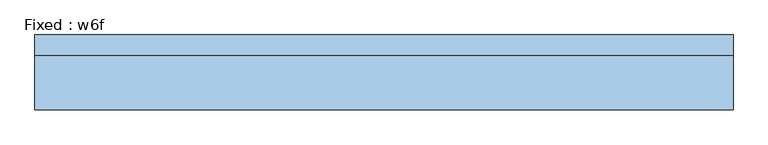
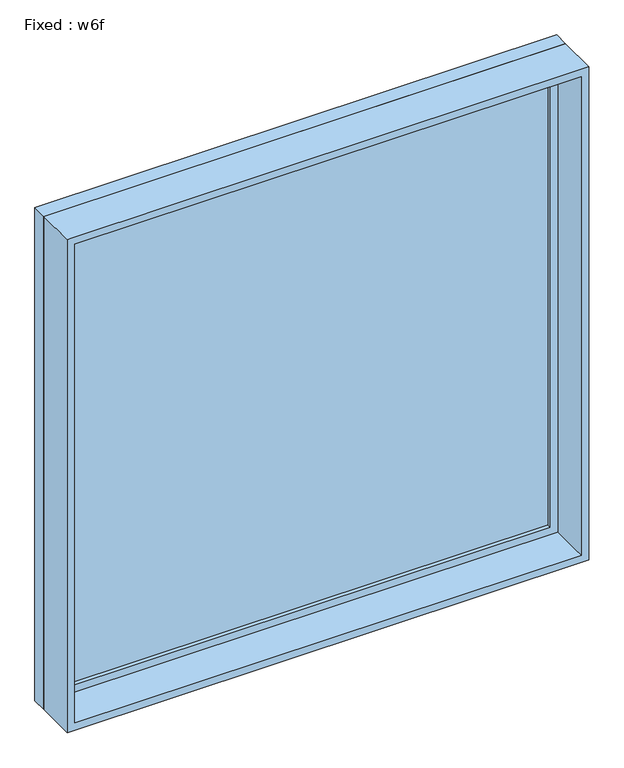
"""IFC4 building model written with IfcOpenShell, lengths in millimetres: window geometry, Fixed : w6f."""

from ifc_helpers import new_model, si_unit, frame, origin, place, context, project, spatial, polyline, outline, extrude, source, transform, mapped, element, save


def fixed_w6f_92124ed6(model_context):
    return source(origin(), model_context, "Body", "SweptSolid", [
        extrude(outline(polyline([(965.2, 66.675), (-1041.4, 66.675), (-1041.4, 79.375), (965.2, 79.375), (965.2, 66.675)])), frame((0.0, 0.0, 977.9), z_axis=(0.0, 0.0, 1.0), x_axis=(1.0, 0.0, 0.0)), (0.0, 0.0, 1.0), 2006.6),
        extrude(outline(polyline([(3028.95, -1085.85), (933.45, -1085.85), (933.45, 1009.65), (3028.95, 1009.65), (3028.95, -1085.85)]), holes=[polyline([(2984.5, -1041.4), (2984.5, 965.2), (977.9, 965.2), (977.9, -1041.4), (2984.5, -1041.4)])]), frame((0.0, 50.8, 0.0), z_axis=(0.0, 1.0, 0.0), x_axis=(0.0, 0.0, 1.0)), (0.0, 0.0, 1.0), 44.45),
        extrude(outline(polyline([(3048.0, -1104.9), (914.4, -1104.9), (914.4, 1028.7), (3048.0, 1028.7), (3048.0, -1104.9)]), holes=[polyline([(3016.25, -1073.15), (3016.25, 996.95), (946.15, 996.95), (946.15, -1073.15), (3016.25, -1073.15)])]), frame((0.0, -114.3, 0.0), z_axis=(0.0, 1.0, 0.0), x_axis=(0.0, 0.0, 1.0)), (0.0, 0.0, 1.0), 165.1),
        extrude(outline(polyline([(3048.0, 1028.7), (3048.0, -1104.9), (914.4, -1104.9), (914.4, 1028.7), (3048.0, 1028.7)]), holes=[polyline([(3028.95, 1009.65), (933.45, 1009.65), (933.45, -1085.85), (3028.95, -1085.85), (3028.95, 1009.65)])]), frame((0.0, 50.8, 0.0), z_axis=(0.0, 1.0, 0.0), x_axis=(0.0, 0.0, 1.0)), (0.0, 0.0, 1.0), 63.5),
    ])


if __name__ == "__main__":
    model = new_model("IFC4")
    model_context = context("Model", 3, world=origin())
    ifc_project = project(units=[si_unit("LENGTHUNIT", "METRE", prefix="MILLI")], contexts=[model_context])
    site = spatial("IfcSite", under=ifc_project)
    building = spatial("IfcBuilding", under=site)
    placement = place(None, origin())
    fixed_w6f_shape = fixed_w6f_92124ed6(model_context)
    element("IfcWindow", 1, ObjectType="Fixed : w6f", at=placement, inside=building, context=model_context, shape_type="MappedRepresentation", body=[
        mapped(fixed_w6f_shape, transform((0.0, 0.0, 0.0), x_axis=(1.0, 0.0, 0.0), y_axis=(0.0, 1.0, 0.0), z_axis=(0.0, 0.0, 1.0))),
    ])
    save(model, "model.ifc")
